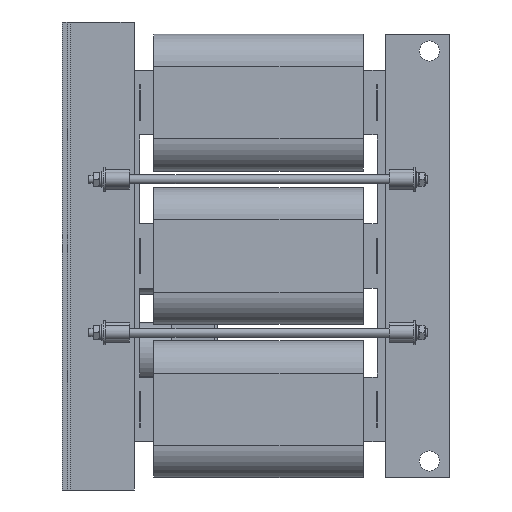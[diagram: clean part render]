
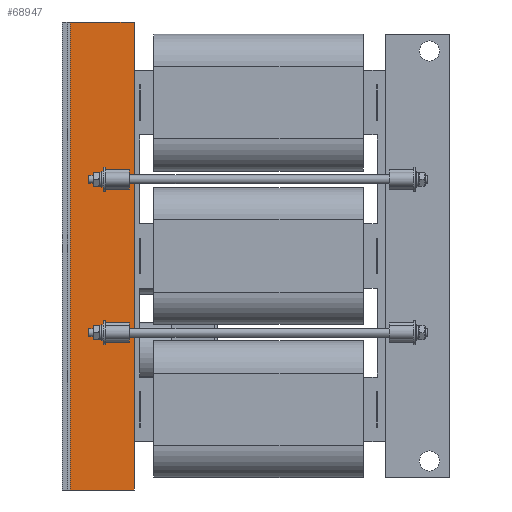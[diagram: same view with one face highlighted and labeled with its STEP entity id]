
A CAD part, left-side view. The second image highlights one B-rep face of the part: STEP entity #68947.
In plain terms, the highlighted planar face has unit normal (-1, 0, 0).
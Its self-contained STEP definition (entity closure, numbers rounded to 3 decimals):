
#1428=FACE_BOUND('',#10668,.T.);
#1429=FACE_BOUND('',#10669,.T.);
#1430=FACE_BOUND('',#10670,.T.);
#1431=FACE_BOUND('',#10671,.T.);
#3309=PLANE('',#73311);
#6535=FACE_OUTER_BOUND('',#10667,.T.);
#10667=EDGE_LOOP('',(#54924,#54925,#54926,#54927));
#10668=EDGE_LOOP('',(#54928,#54929,#54930,#54931));
#10669=EDGE_LOOP('',(#54932,#54933,#54934,#54935));
#10670=EDGE_LOOP('',(#54936,#54937,#54938,#54939));
#10671=EDGE_LOOP('',(#54940,#54941,#54942,#54943));
#17211=LINE('',#111877,#23803);
#17273=LINE('',#112143,#23865);
#17407=LINE('',#112495,#23999);
#17411=LINE('',#112502,#24003);
#17427=LINE('',#112535,#24019);
#17430=LINE('',#112543,#24022);
#17517=LINE('',#112763,#24109);
#17536=LINE('',#112807,#24128);
#17538=LINE('',#112813,#24130);
#17539=LINE('',#112814,#24131);
#17540=LINE('',#112816,#24132);
#17541=LINE('',#112817,#24133);
#17542=LINE('',#112819,#24134);
#17543=LINE('',#112821,#24135);
#17544=LINE('',#112822,#24136);
#17545=LINE('',#112824,#24137);
#17546=LINE('',#112825,#24138);
#17547=LINE('',#112827,#24139);
#17548=LINE('',#112829,#24140);
#17549=LINE('',#112830,#24141);
#23803=VECTOR('',#84341,10.);
#23865=VECTOR('',#84603,10.);
#23999=VECTOR('',#84883,10.);
#24003=VECTOR('',#84889,10.);
#24019=VECTOR('',#84915,10.);
#24022=VECTOR('',#84920,10.);
#24109=VECTOR('',#85125,10.);
#24128=VECTOR('',#85166,10.);
#24130=VECTOR('',#85172,10.);
#24131=VECTOR('',#85173,10.);
#24132=VECTOR('',#85174,10.);
#24133=VECTOR('',#85175,10.);
#24134=VECTOR('',#85176,10.);
#24135=VECTOR('',#85177,10.);
#24136=VECTOR('',#85178,10.);
#24137=VECTOR('',#85179,10.);
#24138=VECTOR('',#85180,10.);
#24139=VECTOR('',#85181,10.);
#24140=VECTOR('',#85182,10.);
#24141=VECTOR('',#85183,10.);
#31332=VERTEX_POINT('',#111874);
#31333=VERTEX_POINT('',#111876);
#31436=VERTEX_POINT('',#112140);
#31437=VERTEX_POINT('',#112142);
#31581=VERTEX_POINT('',#112492);
#31582=VERTEX_POINT('',#112494);
#31584=VERTEX_POINT('',#112500);
#31596=VERTEX_POINT('',#112533);
#31599=VERTEX_POINT('',#112540);
#31600=VERTEX_POINT('',#112542);
#31673=VERTEX_POINT('',#112760);
#31674=VERTEX_POINT('',#112762);
#31688=VERTEX_POINT('',#112806);
#31690=VERTEX_POINT('',#112812);
#31691=VERTEX_POINT('',#112815);
#31692=VERTEX_POINT('',#112818);
#31693=VERTEX_POINT('',#112820);
#31694=VERTEX_POINT('',#112823);
#31695=VERTEX_POINT('',#112826);
#31696=VERTEX_POINT('',#112828);
#39374=EDGE_CURVE('',#31333,#31332,#17211,.T.);
#39492=EDGE_CURVE('',#31437,#31436,#17273,.T.);
#39654=EDGE_CURVE('',#31582,#31581,#17407,.T.);
#39658=EDGE_CURVE('',#31436,#31584,#17411,.T.);
#39674=EDGE_CURVE('',#31332,#31596,#17427,.T.);
#39677=EDGE_CURVE('',#31600,#31599,#17430,.T.);
#39788=EDGE_CURVE('',#31673,#31674,#17517,.T.);
#39812=EDGE_CURVE('',#31674,#31688,#17536,.T.);
#39815=EDGE_CURVE('',#31690,#31673,#17538,.T.);
#39816=EDGE_CURVE('',#31688,#31690,#17539,.T.);
#39817=EDGE_CURVE('',#31596,#31691,#17540,.T.);
#39818=EDGE_CURVE('',#31691,#31333,#17541,.T.);
#39819=EDGE_CURVE('',#31692,#31600,#17542,.T.);
#39820=EDGE_CURVE('',#31599,#31693,#17543,.T.);
#39821=EDGE_CURVE('',#31693,#31692,#17544,.T.);
#39822=EDGE_CURVE('',#31584,#31694,#17545,.T.);
#39823=EDGE_CURVE('',#31694,#31437,#17546,.T.);
#39824=EDGE_CURVE('',#31695,#31582,#17547,.T.);
#39825=EDGE_CURVE('',#31581,#31696,#17548,.T.);
#39826=EDGE_CURVE('',#31696,#31695,#17549,.T.);
#54924=ORIENTED_EDGE('',*,*,#39812,.F.);
#54925=ORIENTED_EDGE('',*,*,#39788,.F.);
#54926=ORIENTED_EDGE('',*,*,#39815,.F.);
#54927=ORIENTED_EDGE('',*,*,#39816,.F.);
#54928=ORIENTED_EDGE('',*,*,#39374,.T.);
#54929=ORIENTED_EDGE('',*,*,#39674,.T.);
#54930=ORIENTED_EDGE('',*,*,#39817,.T.);
#54931=ORIENTED_EDGE('',*,*,#39818,.T.);
#54932=ORIENTED_EDGE('',*,*,#39819,.T.);
#54933=ORIENTED_EDGE('',*,*,#39677,.T.);
#54934=ORIENTED_EDGE('',*,*,#39820,.T.);
#54935=ORIENTED_EDGE('',*,*,#39821,.T.);
#54936=ORIENTED_EDGE('',*,*,#39492,.T.);
#54937=ORIENTED_EDGE('',*,*,#39658,.T.);
#54938=ORIENTED_EDGE('',*,*,#39822,.T.);
#54939=ORIENTED_EDGE('',*,*,#39823,.T.);
#54940=ORIENTED_EDGE('',*,*,#39824,.T.);
#54941=ORIENTED_EDGE('',*,*,#39654,.T.);
#54942=ORIENTED_EDGE('',*,*,#39825,.T.);
#54943=ORIENTED_EDGE('',*,*,#39826,.T.);
#68947=ADVANCED_FACE('',(#6535,#1428,#1429,#1430,#1431),#3309,.T.);
#73311=AXIS2_PLACEMENT_3D('',#112811,#85170,#85171);
#84341=DIRECTION('',(0.,0.,1.));
#84603=DIRECTION('',(0.,0.,1.));
#84883=DIRECTION('',(0.,1.,0.));
#84889=DIRECTION('',(0.,-1.,0.));
#84915=DIRECTION('',(0.,-1.,0.));
#84920=DIRECTION('',(0.,1.,0.));
#85125=DIRECTION('',(0.,1.,0.));
#85166=DIRECTION('',(0.,0.,1.));
#85170=DIRECTION('center_axis',(-1.,0.,0.));
#85171=DIRECTION('ref_axis',(0.,0.,-1.));
#85172=DIRECTION('',(0.,0.,-1.));
#85173=DIRECTION('',(0.,-1.,0.));
#85174=DIRECTION('',(0.,0.,-1.));
#85175=DIRECTION('',(0.,1.,0.));
#85176=DIRECTION('',(0.,0.,-1.));
#85177=DIRECTION('',(0.,0.,1.));
#85178=DIRECTION('',(0.,-1.,0.));
#85179=DIRECTION('',(0.,0.,-1.));
#85180=DIRECTION('',(0.,1.,0.));
#85181=DIRECTION('',(0.,0.,-1.));
#85182=DIRECTION('',(0.,0.,1.));
#85183=DIRECTION('',(0.,-1.,0.));
#111874=CARTESIAN_POINT('',(616.413,670.089,875.727));
#111876=CARTESIAN_POINT('',(616.413,670.089,869.727));
#111877=CARTESIAN_POINT('',(616.413,670.089,872.727));
#112140=CARTESIAN_POINT('',(616.413,670.089,685.727));
#112142=CARTESIAN_POINT('',(616.413,670.089,679.727));
#112143=CARTESIAN_POINT('',(616.413,670.089,682.727));
#112492=CARTESIAN_POINT('',(616.413,670.089,697.727));
#112494=CARTESIAN_POINT('',(616.413,640.089,697.727));
#112495=CARTESIAN_POINT('',(616.413,657.839,697.727));
#112500=CARTESIAN_POINT('',(616.413,640.089,685.727));
#112502=CARTESIAN_POINT('',(616.413,657.839,685.727));
#112533=CARTESIAN_POINT('',(616.413,640.089,875.727));
#112535=CARTESIAN_POINT('',(616.413,657.839,875.727));
#112540=CARTESIAN_POINT('',(616.413,670.089,887.727));
#112542=CARTESIAN_POINT('',(616.413,640.089,887.727));
#112543=CARTESIAN_POINT('',(616.413,657.839,887.727));
#112760=CARTESIAN_POINT('',(616.413,634.089,496.727));
#112762=CARTESIAN_POINT('',(616.413,713.089,496.727));
#112763=CARTESIAN_POINT('',(616.413,634.089,496.727));
#112806=CARTESIAN_POINT('',(616.413,713.089,1076.727));
#112807=CARTESIAN_POINT('',(616.413,713.089,931.727));
#112811=CARTESIAN_POINT('Origin',(616.413,675.589,786.727));
#112812=CARTESIAN_POINT('',(616.413,634.089,1076.727));
#112813=CARTESIAN_POINT('',(616.413,634.089,1076.727));
#112814=CARTESIAN_POINT('',(616.413,717.089,1076.727));
#112815=CARTESIAN_POINT('',(616.413,640.089,869.727));
#112816=CARTESIAN_POINT('',(616.413,640.089,872.727));
#112817=CARTESIAN_POINT('',(616.413,640.089,869.727));
#112818=CARTESIAN_POINT('',(616.413,640.089,893.727));
#112819=CARTESIAN_POINT('',(616.413,640.089,890.727));
#112820=CARTESIAN_POINT('',(616.413,670.089,893.727));
#112821=CARTESIAN_POINT('',(616.413,670.089,890.727));
#112822=CARTESIAN_POINT('',(616.413,670.089,893.727));
#112823=CARTESIAN_POINT('',(616.413,640.089,679.727));
#112824=CARTESIAN_POINT('',(616.413,640.089,682.727));
#112825=CARTESIAN_POINT('',(616.413,640.089,679.727));
#112826=CARTESIAN_POINT('',(616.413,640.089,703.727));
#112827=CARTESIAN_POINT('',(616.413,640.089,700.727));
#112828=CARTESIAN_POINT('',(616.413,670.089,703.727));
#112829=CARTESIAN_POINT('',(616.413,670.089,700.727));
#112830=CARTESIAN_POINT('',(616.413,670.089,703.727));
